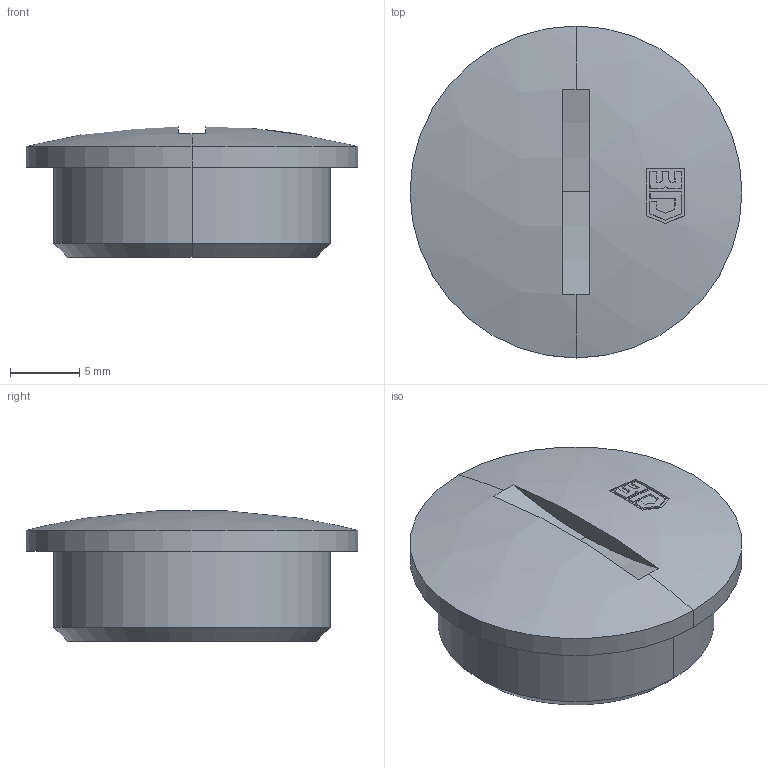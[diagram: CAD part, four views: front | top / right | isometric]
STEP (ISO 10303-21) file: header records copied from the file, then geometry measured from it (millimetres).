
FILE_DESCRIPTION (( 'STEP AP203' ), '1' );
FILE_NAME ('10.2015.STEP', '2005-10-06T12:33:18', ( ' ' ), ( '' ), 'SwSTEP 2.0', 'SolidWorks 2005143', '' );
FILE_SCHEMA (( 'CONFIG_CONTROL_DESIGN' ));
Length unit declared in the file: millimetre
Products named in the file (1): 10.2015
Bounding box: 24 x 24 x 9.43 mm (x, y, z)
Volume: 1940.4 mm3; surface area: 1703.5 mm2
Topology: 1 solids, 1 shells, 56 faces, 141 edges, 92 vertices
Faces by surface type: plane 39, cylinder 8, sphere 5, cone 4
Entity records: 1819 total; most frequent: CARTESIAN_POINT 341, DIRECTION 323, ORIENTED_EDGE 282, EDGE_CURVE 141, AXIS2_PLACEMENT_3D 139, VERTEX_POINT 92, CIRCLE 82, EDGE_LOOP 61
